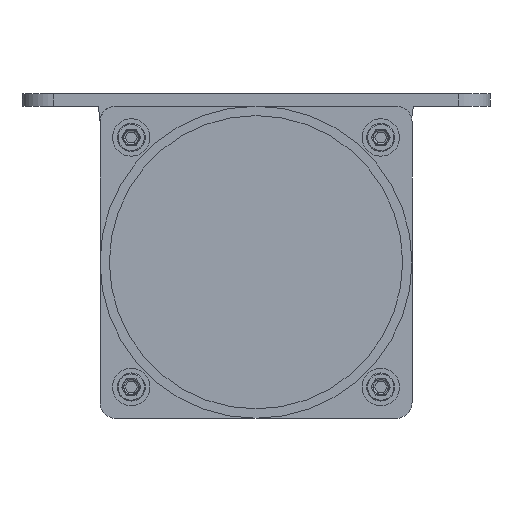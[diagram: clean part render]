
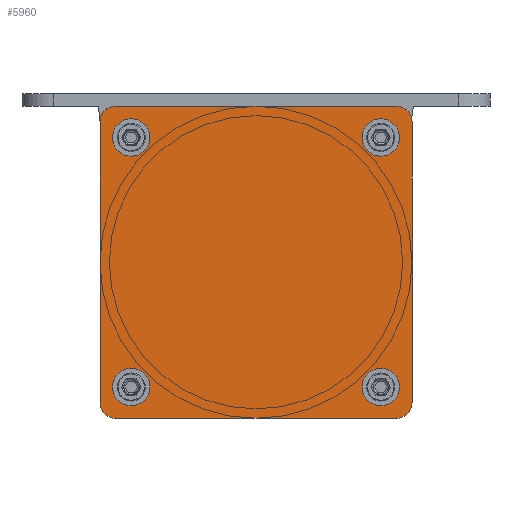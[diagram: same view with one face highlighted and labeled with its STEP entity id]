
A CAD part, front view. The second image highlights one B-rep face of the part: STEP entity #5960.
In plain terms, the highlighted planar face has unit normal (0, -1, 0).
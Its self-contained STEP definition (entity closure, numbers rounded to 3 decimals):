
#2117=CARTESIAN_POINT('',(-45.,-615.5,-45.));
#2118=DIRECTION('',(0.,-1.,0.));
#2119=DIRECTION('',(-1.,0.,0.));
#2120=AXIS2_PLACEMENT_3D('',#2117,#2118,#2119);
#2122=DIRECTION('',(0.,0.,-1.));
#2123=VECTOR('',#2122,90.);
#2124=CARTESIAN_POINT('',(-50.,-615.5,45.));
#2125=LINE('',#2124,#2123);
#2126=CARTESIAN_POINT('',(-45.,-615.5,45.));
#2127=DIRECTION('',(0.,-1.,0.));
#2128=DIRECTION('',(0.,0.,1.));
#2129=AXIS2_PLACEMENT_3D('',#2126,#2127,#2128);
#2131=DIRECTION('',(-1.,0.,0.));
#2132=VECTOR('',#2131,90.);
#2133=CARTESIAN_POINT('',(45.,-615.5,50.));
#2134=LINE('',#2133,#2132);
#2135=CARTESIAN_POINT('',(45.,-615.5,45.));
#2136=DIRECTION('',(0.,-1.,0.));
#2137=DIRECTION('',(1.,0.,0.));
#2138=AXIS2_PLACEMENT_3D('',#2135,#2136,#2137);
#2140=DIRECTION('',(0.,0.,1.));
#2141=VECTOR('',#2140,90.);
#2142=CARTESIAN_POINT('',(50.,-615.5,-45.));
#2143=LINE('',#2142,#2141);
#2144=CARTESIAN_POINT('',(45.,-615.5,-45.));
#2145=DIRECTION('',(0.,-1.,0.));
#2146=DIRECTION('',(0.,0.,-1.));
#2147=AXIS2_PLACEMENT_3D('',#2144,#2145,#2146);
#2149=DIRECTION('',(1.,0.,0.));
#2150=VECTOR('',#2149,90.);
#2151=CARTESIAN_POINT('',(-45.,-615.5,-50.));
#2152=LINE('',#2151,#2150);
#2153=CARTESIAN_POINT('',(-40.,-615.5,-40.));
#2154=DIRECTION('',(0.,-1.,0.));
#2155=DIRECTION('',(0.,0.,1.));
#2156=AXIS2_PLACEMENT_3D('',#2153,#2154,#2155);
#2158=CARTESIAN_POINT('',(-40.,-615.5,-40.));
#2159=DIRECTION('',(0.,-1.,0.));
#2160=DIRECTION('',(0.,0.,-1.));
#2161=AXIS2_PLACEMENT_3D('',#2158,#2159,#2160);
#2163=CARTESIAN_POINT('',(-40.,-615.5,40.));
#2164=DIRECTION('',(0.,-1.,0.));
#2165=DIRECTION('',(0.,0.,1.));
#2166=AXIS2_PLACEMENT_3D('',#2163,#2164,#2165);
#2168=CARTESIAN_POINT('',(-40.,-615.5,40.));
#2169=DIRECTION('',(0.,-1.,0.));
#2170=DIRECTION('',(0.,0.,-1.));
#2171=AXIS2_PLACEMENT_3D('',#2168,#2169,#2170);
#2173=CARTESIAN_POINT('',(40.,-615.5,-40.));
#2174=DIRECTION('',(0.,-1.,0.));
#2175=DIRECTION('',(0.,0.,1.));
#2176=AXIS2_PLACEMENT_3D('',#2173,#2174,#2175);
#2178=CARTESIAN_POINT('',(40.,-615.5,-40.));
#2179=DIRECTION('',(0.,-1.,0.));
#2180=DIRECTION('',(0.,0.,-1.));
#2181=AXIS2_PLACEMENT_3D('',#2178,#2179,#2180);
#2183=CARTESIAN_POINT('',(40.,-615.5,40.));
#2184=DIRECTION('',(0.,-1.,0.));
#2185=DIRECTION('',(0.,0.,1.));
#2186=AXIS2_PLACEMENT_3D('',#2183,#2184,#2185);
#2188=CARTESIAN_POINT('',(40.,-615.5,40.));
#2189=DIRECTION('',(0.,-1.,0.));
#2190=DIRECTION('',(0.,0.,-1.));
#2191=AXIS2_PLACEMENT_3D('',#2188,#2189,#2190);
#2501=CARTESIAN_POINT('',(-50.,-615.5,-45.));
#2502=CARTESIAN_POINT('',(-45.,-615.5,-50.));
#2503=VERTEX_POINT('',#2501);
#2504=VERTEX_POINT('',#2502);
#2505=CARTESIAN_POINT('',(45.,-615.5,-50.));
#2506=VERTEX_POINT('',#2505);
#2507=CARTESIAN_POINT('',(50.,-615.5,-45.));
#2508=VERTEX_POINT('',#2507);
#2509=CARTESIAN_POINT('',(50.,-615.5,45.));
#2510=VERTEX_POINT('',#2509);
#2511=CARTESIAN_POINT('',(45.,-615.5,50.));
#2512=VERTEX_POINT('',#2511);
#2513=CARTESIAN_POINT('',(-45.,-615.5,50.));
#2514=VERTEX_POINT('',#2513);
#2515=CARTESIAN_POINT('',(-50.,-615.5,45.));
#2516=VERTEX_POINT('',#2515);
#2529=CARTESIAN_POINT('',(-40.,-615.5,-36.75));
#2530=CARTESIAN_POINT('',(-40.,-615.5,-43.25));
#2531=VERTEX_POINT('',#2529);
#2532=VERTEX_POINT('',#2530);
#2533=CARTESIAN_POINT('',(-40.,-615.5,43.25));
#2534=CARTESIAN_POINT('',(-40.,-615.5,36.75));
#2535=VERTEX_POINT('',#2533);
#2536=VERTEX_POINT('',#2534);
#2537=CARTESIAN_POINT('',(40.,-615.5,-36.75));
#2538=CARTESIAN_POINT('',(40.,-615.5,-43.25));
#2539=VERTEX_POINT('',#2537);
#2540=VERTEX_POINT('',#2538);
#2541=CARTESIAN_POINT('',(40.,-615.5,43.25));
#2542=CARTESIAN_POINT('',(40.,-615.5,36.75));
#2543=VERTEX_POINT('',#2541);
#2544=VERTEX_POINT('',#2542);
#5915=CARTESIAN_POINT('',(0.,-615.5,0.));
#5916=DIRECTION('',(0.,-1.,0.));
#5917=DIRECTION('',(0.,0.,1.));
#5918=AXIS2_PLACEMENT_3D('',#5915,#5916,#5917);
#5919=PLANE('',#5918);
#5921=ORIENTED_EDGE('',*,*,#5920,.F.);
#5923=ORIENTED_EDGE('',*,*,#5922,.F.);
#5925=ORIENTED_EDGE('',*,*,#5924,.F.);
#5927=ORIENTED_EDGE('',*,*,#5926,.F.);
#5929=ORIENTED_EDGE('',*,*,#5928,.F.);
#5931=ORIENTED_EDGE('',*,*,#5930,.F.);
#5933=ORIENTED_EDGE('',*,*,#5932,.F.);
#5935=ORIENTED_EDGE('',*,*,#5934,.F.);
#5936=EDGE_LOOP('',(#5921,#5923,#5925,#5927,#5929,#5931,#5933,#5935));
#5937=FACE_OUTER_BOUND('',#5936,.F.);
#5938=ORIENTED_EDGE('',*,*,#5895,.T.);
#5939=ORIENTED_EDGE('',*,*,#5909,.T.);
#5940=EDGE_LOOP('',(#5938,#5939));
#5941=FACE_BOUND('',#5940,.F.);
#5943=ORIENTED_EDGE('',*,*,#5942,.T.);
#5945=ORIENTED_EDGE('',*,*,#5944,.T.);
#5946=EDGE_LOOP('',(#5943,#5945));
#5947=FACE_BOUND('',#5946,.F.);
#5949=ORIENTED_EDGE('',*,*,#5948,.T.);
#5951=ORIENTED_EDGE('',*,*,#5950,.T.);
#5952=EDGE_LOOP('',(#5949,#5951));
#5953=FACE_BOUND('',#5952,.F.);
#5955=ORIENTED_EDGE('',*,*,#5954,.T.);
#5957=ORIENTED_EDGE('',*,*,#5956,.T.);
#5958=EDGE_LOOP('',(#5955,#5957));
#5959=FACE_BOUND('',#5958,.F.);
#5960=ADVANCED_FACE('',(#5937,#5941,#5947,#5953,#5959),#5919,.T.);
#2121=CIRCLE('',#2120,5.);
#2130=CIRCLE('',#2129,5.);
#2139=CIRCLE('',#2138,5.);
#2148=CIRCLE('',#2147,5.);
#2157=CIRCLE('',#2156,3.25);
#2162=CIRCLE('',#2161,3.25);
#2167=CIRCLE('',#2166,3.25);
#2172=CIRCLE('',#2171,3.25);
#2177=CIRCLE('',#2176,3.25);
#2182=CIRCLE('',#2181,3.25);
#2187=CIRCLE('',#2186,3.25);
#2192=CIRCLE('',#2191,3.25);
#5895=EDGE_CURVE('',#2531,#2532,#2157,.T.);
#5909=EDGE_CURVE('',#2532,#2531,#2162,.T.);
#5920=EDGE_CURVE('',#2503,#2504,#2121,.T.);
#5922=EDGE_CURVE('',#2516,#2503,#2125,.T.);
#5924=EDGE_CURVE('',#2514,#2516,#2130,.T.);
#5926=EDGE_CURVE('',#2512,#2514,#2134,.T.);
#5928=EDGE_CURVE('',#2510,#2512,#2139,.T.);
#5930=EDGE_CURVE('',#2508,#2510,#2143,.T.);
#5932=EDGE_CURVE('',#2506,#2508,#2148,.T.);
#5934=EDGE_CURVE('',#2504,#2506,#2152,.T.);
#5942=EDGE_CURVE('',#2535,#2536,#2167,.T.);
#5944=EDGE_CURVE('',#2536,#2535,#2172,.T.);
#5948=EDGE_CURVE('',#2539,#2540,#2177,.T.);
#5950=EDGE_CURVE('',#2540,#2539,#2182,.T.);
#5954=EDGE_CURVE('',#2543,#2544,#2187,.T.);
#5956=EDGE_CURVE('',#2544,#2543,#2192,.T.);
